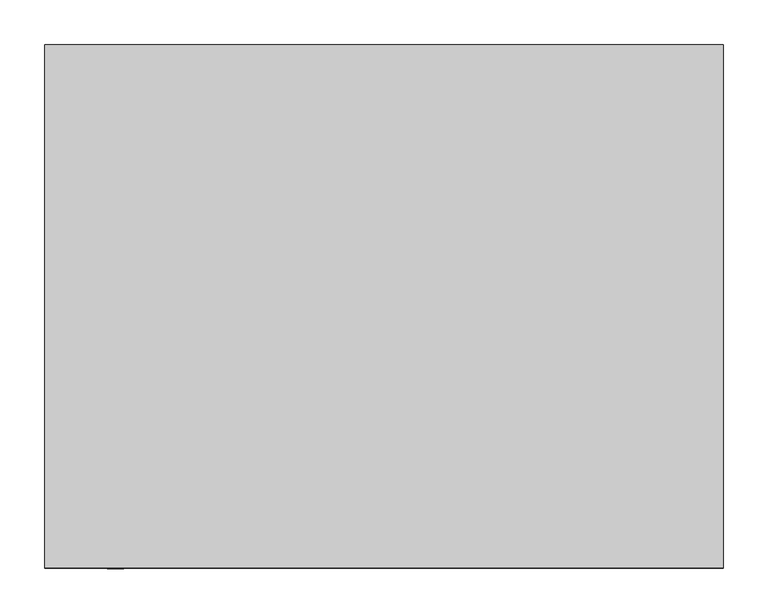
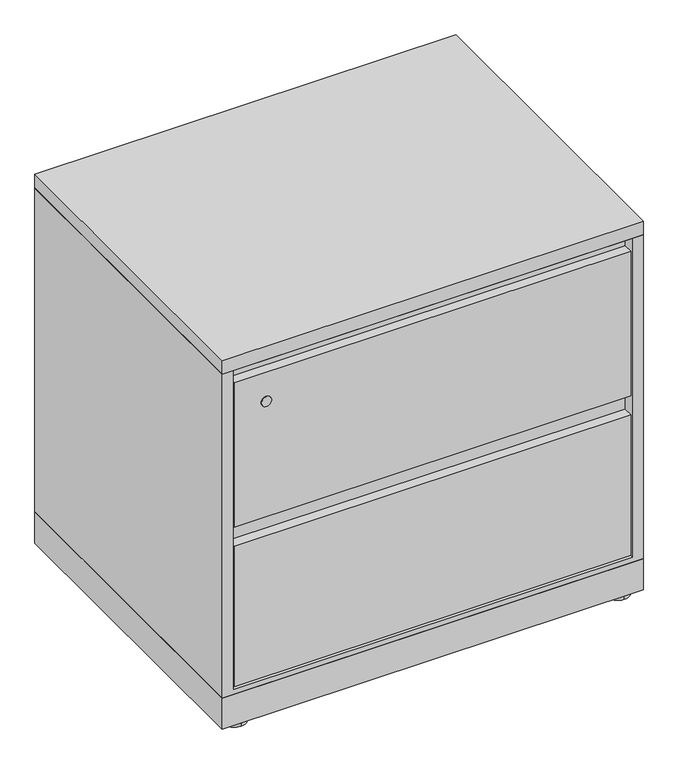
"""IFC4 building model written with IfcOpenShell, lengths in millimetres: furniture geometry, Steelcase - Universal Storage - Lateral File - 2 High - Flush Steel : 23 1/8D x 30W."""

from ifc_helpers import new_model, si_unit, point, frame, frame_2d, origin, origin_with_axes, place, context, project, spatial, polyline, circle_curve, trimmed, segment, composite_curve, outline, extrude, faceted_brep, source, transform, mapped, element, save


def furniture_c11cdd41(model_context):
    return source(origin(), model_context, "Body", "SolidModel", [
        extrude(outline(polyline([(762.0, 587.502), (762.0, 0.0), (0.0, 0.0), (0.0, 587.502), (762.0, 587.502)])), frame((0.0, 0.0, 685.7999516), z_axis=(0.0, 0.0, 1.0), x_axis=(1.0, 0.0, 0.0)), (0.0, 0.0, 1.0), 25.4),
        extrude(outline(polyline([(762.0, 587.502), (762.0, 0.0), (0.0, 0.0), (0.0, 587.502), (762.0, 587.502)])), frame((0.0, 0.0, 6.3500002), z_axis=(0.0, 0.0, 1.0), x_axis=(1.0, 0.0, 0.0)), (0.0, 0.0, 1.0), 59.6899998),
        extrude(outline(composite_curve([segment(trimmed(circle_curve(frame_2d((727.3290058, 565.1653666)), 20.32), [point((727.3290058, 544.8453666))], [point((727.3290058, 585.4853666))], False, "CARTESIAN"), True, "CONTINUOUS"), segment(trimmed(circle_curve(frame_2d((727.3290058, 565.1653666)), 20.32), [point((727.3290058, 585.4853666))], [point((727.3290058, 544.8453666))], False, "CARTESIAN"), True, "CONTINUOUS")], self_intersect=False)), origin_with_axes(), (0.0, 0.0, 1.0), 6.3500002),
        extrude(outline(composite_curve([segment(trimmed(circle_curve(frame_2d((727.3290058, 20.7491455)), 20.32), [point((727.3290058, 0.4291455))], [point((727.3290058, 41.0691455))], False, "CARTESIAN"), True, "CONTINUOUS"), segment(trimmed(circle_curve(frame_2d((727.3290058, 20.7491455)), 20.32), [point((727.3290058, 41.0691455))], [point((727.3290058, 0.4291455))], False, "CARTESIAN"), True, "CONTINUOUS")], self_intersect=False)), origin_with_axes(), (0.0, 0.0, 1.0), 6.3500002),
        extrude(outline(composite_curve([segment(trimmed(circle_curve(frame_2d((34.29, 565.1653666)), 20.32), [point((34.29, 585.4853666))], [point((34.29, 544.8453666))], False, "CARTESIAN"), True, "CONTINUOUS"), segment(trimmed(circle_curve(frame_2d((34.29, 565.1653666)), 20.32), [point((34.29, 544.8453666))], [point((34.29, 585.4853666))], False, "CARTESIAN"), True, "CONTINUOUS")], self_intersect=False)), origin_with_axes(), (0.0, 0.0, 1.0), 6.3500002),
        extrude(outline(composite_curve([segment(trimmed(circle_curve(frame_2d((34.29, 20.7491455)), 20.32), [point((34.29, 41.0691455))], [point((34.29, 0.4291455))], False, "CARTESIAN"), True, "CONTINUOUS"), segment(trimmed(circle_curve(frame_2d((34.29, 20.7491455)), 20.32), [point((34.29, 0.4291455))], [point((34.29, 41.0691455))], False, "CARTESIAN"), True, "CONTINUOUS")], self_intersect=False)), origin_with_axes(), (0.0, 0.0, 1.0), 6.3500002),
        extrude(outline(polyline([(568.0964128, 396.7988176), (568.0964128, 410.7687861), (571.271412, 410.7687861), (571.271412, 371.5257963), (26.822418, 371.5257963), (26.822418, 396.7988176), (568.0964128, 396.7988176)])), frame((22.0472, 0.0, 0.0), z_axis=(1.0, 0.0, 0.0), x_axis=(0.0, 1.0, 0.0)), (0.0, 0.0, 1.0), 717.9056),
        extrude(outline(polyline([(1.45e-05, 685.7999516), (587.502, 685.7999516), (586.7399879, 685.0379394), (0.7620266, 685.0379394), (1.45e-05, 685.7999516)])), frame((0.0, 0.0, 0.0), z_axis=(1.0, 0.0, 0.0), x_axis=(0.0, 1.0, 0.0)), (0.0, 0.0, 1.0), 762.0),
        faceted_brep([(762.0, 0.0, 66.04), (762.0, 587.502, 66.04), (762.0, 587.502, 685.0379394), (762.0, 0.0, 685.0379394), (0.0, 0.0, 685.0379394), (0.0, 587.502, 685.0379394), (0.0, 587.502, 66.04), (0.0, 0.0, 66.04), (742.95, 0.0, 685.0379394), (742.95, 0.0, 75.1586), (19.05, 0.0, 75.1586), (19.05, 0.0, 685.0379394), (19.05, 584.3269999, 685.0379394), (742.95, 584.3269999, 685.0379394), (19.05, 584.3269999, 75.1586), (742.95, 584.3269999, 75.1586)], [[[0, 1, 2, 3]], [[4, 5, 6, 7]], [[0, 3, 8, 9, 10, 11, 4, 7]], [[2, 1, 6, 5]], [[3, 2, 5, 4, 11, 12, 13, 8]], [[12, 14, 15, 13]], [[14, 12, 11, 10]], [[13, 15, 9, 8]], [[1, 0, 7, 6]], [[10, 9, 15, 14]]]),
        extrude(outline(polyline([(23.6541043, 79.2988025), (1.5178885, 79.2988025), (1.5178885, 348.1577823), (19.3741023, 348.1577823), (19.3741023, 378.7648167), (23.6541043, 378.7648167), (23.6541043, 79.2988025)])), frame((22.0472, 0.0, 0.0), z_axis=(1.0, 0.0, 0.0), x_axis=(0.0, 1.0, 0.0)), (0.0, 0.0, 1.0), 717.9056),
        extrude(outline(polyline([(23.6541043, 384.1241916), (1.5178885, 384.1241916), (1.5178885, 660.4), (19.3741023, 660.4), (19.3741023, 684.2759167), (23.6541043, 684.2759167), (23.6541043, 384.1241916)])), frame((22.0472, 0.0, 0.0), z_axis=(1.0, 0.0, 0.0), x_axis=(0.0, 1.0, 0.0)), (0.0, 0.0, 1.0), 717.9056),
        extrude(outline(composite_curve([segment(trimmed(circle_curve(frame_2d((606.1930374, 79.5245518)), 9.2851891), [point((606.1930374, 70.2393627))], [point((606.1930374, 88.8097409))], False, "CARTESIAN"), True, "CONTINUOUS"), segment(trimmed(circle_curve(frame_2d((606.1930374, 79.5245518)), 9.2851891), [point((606.1930374, 88.8097409))], [point((606.1930374, 70.2393627))], False, "CARTESIAN"), True, "CONTINUOUS")], self_intersect=False)), frame((0.0, -1.044398, 0.0), z_axis=(0.0, 1.0, 0.0), x_axis=(0.0, 0.0, 1.0)), (0.0, 0.0, 1.0), 1.044398),
    ])


if __name__ == "__main__":
    model = new_model("IFC4")
    model_context = context("Model", 3, world=origin())
    ifc_project = project(units=[si_unit("LENGTHUNIT", "METRE", prefix="MILLI")], contexts=[model_context])
    site = spatial("IfcSite", under=ifc_project)
    building = spatial("IfcBuilding", under=site)
    placement = place(None, origin())
    furniture_shape = furniture_c11cdd41(model_context)
    element("IfcFurniture", 1, ObjectType="Steelcase - Universal Storage - Lateral File - 2 High - Flush Steel : 23 1/8D x 30W", at=placement, inside=building, context=model_context, shape_type="MappedRepresentation", body=[
        mapped(furniture_shape, transform((0.0, 0.0, 0.0), x_axis=(1.0, 0.0, 0.0), y_axis=(0.0, 1.0, 0.0), z_axis=(0.0, 0.0, 1.0))),
    ])
    save(model, "model.ifc")
